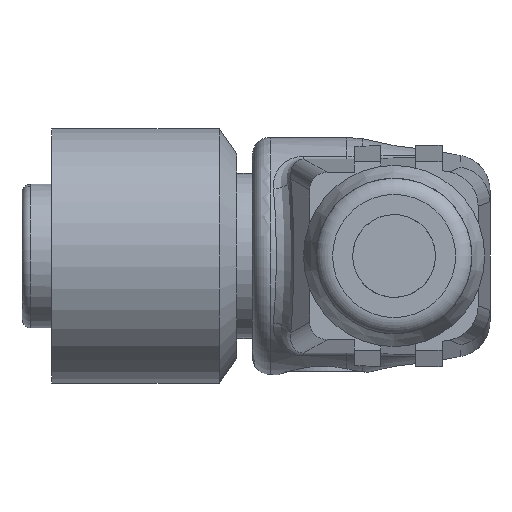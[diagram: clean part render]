
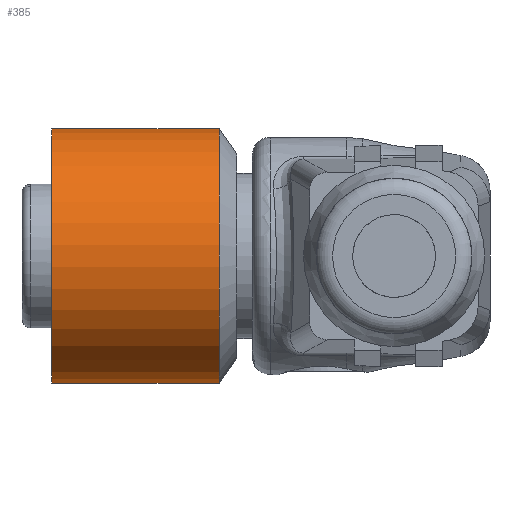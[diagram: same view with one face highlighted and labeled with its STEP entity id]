
A CAD part, front view. The second image highlights one B-rep face of the part: STEP entity #385.
In plain terms, the highlighted cylindrical face has radius 7.25 mm (diameter 14.5 mm), a full revolution.
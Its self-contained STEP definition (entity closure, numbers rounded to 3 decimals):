
#385 = ADVANCED_FACE( '', ( #848, #849 ), #850, .T. );
#848 = FACE_OUTER_BOUND( '', #2367, .T. );
#849 = FACE_OUTER_BOUND( '', #2368, .T. );
#850 = CYLINDRICAL_SURFACE( '', #2369, 7.25 );
#2367 = EDGE_LOOP( '', ( #3563 ) );
#2368 = EDGE_LOOP( '', ( #3564 ) );
#2369 = AXIS2_PLACEMENT_3D( '', #3565, #3566, #3567 );
#3563 = ORIENTED_EDGE( '', *, *, #4241, .T. );
#3564 = ORIENTED_EDGE( '', *, *, #4054, .F. );
#3565 = CARTESIAN_POINT( '', ( 15.654, 27.333, 0. ) );
#3566 = DIRECTION( '', ( 1., 0., 0. ) );
#3567 = DIRECTION( '', ( 0., 0.707, 0.707 ) );
#4054 = EDGE_CURVE( '', #4581, #4581, #4582, .T. );
#4241 = EDGE_CURVE( '', #4894, #4894, #4895, .T. );
#4581 = VERTEX_POINT( '', #5380 );
#4582 = CIRCLE( '', #5381, 7.25 );
#4894 = VERTEX_POINT( '', #6348 );
#4895 = CIRCLE( '', #6349, 7.25 );
#5380 = CARTESIAN_POINT( '', ( 20.404, 32.46, 5.127 ) );
#5381 = AXIS2_PLACEMENT_3D( '', #7964, #7965, #7966 );
#6348 = CARTESIAN_POINT( '', ( 10.904, 22.207, -5.127 ) );
#6349 = AXIS2_PLACEMENT_3D( '', #8170, #8171, #8172 );
#7964 = CARTESIAN_POINT( '', ( 20.404, 27.333, 0. ) );
#7965 = DIRECTION( '', ( 1., 0., 0. ) );
#7966 = DIRECTION( '', ( 0., 0.707, 0.707 ) );
#8170 = CARTESIAN_POINT( '', ( 10.904, 27.333, 0. ) );
#8171 = DIRECTION( '', ( 1., 0., 0. ) );
#8172 = DIRECTION( '', ( 0., -0.707, -0.707 ) );
